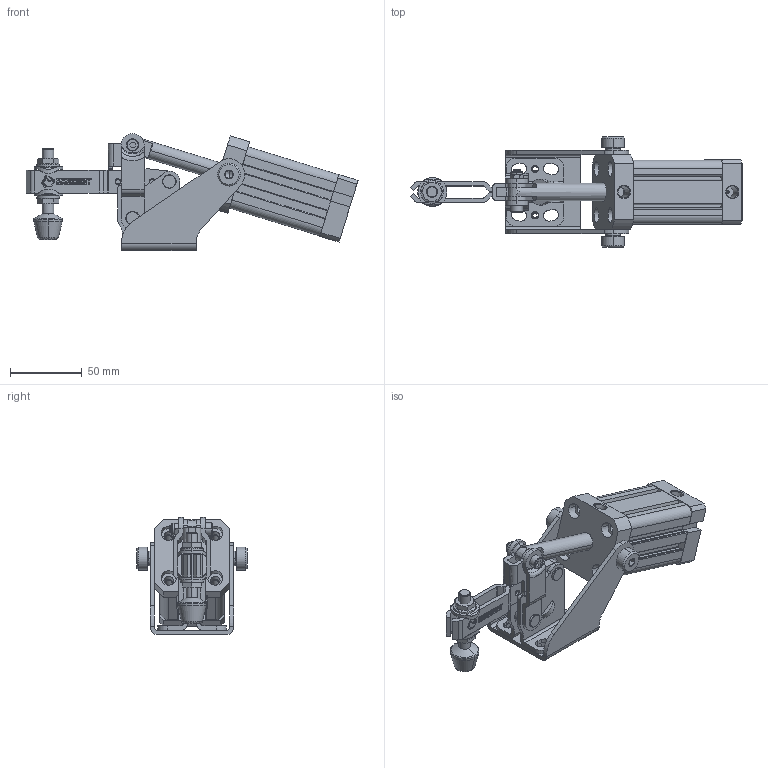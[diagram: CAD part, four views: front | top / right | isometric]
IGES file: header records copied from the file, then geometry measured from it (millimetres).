
Start section: 3D InterOp IGES (v. 2020 1.0.1), Spatial Corp. Copyright (c) 1999-2017.
Global section: file name: 612-3.igs; native system: Spatial Corp.; preprocessor: 3D InterOp ACIS/IGES; author: TraceParts; organization: TraceParts S.A.; date: 20240305.220324; units: millimetre
Bounding box: 231.12 x 77 x 81.5 mm (x, y, z)
Surface area: 103784 mm2 (no closed solid volume)
Topology: 0 solids, 0 shells, 1609 faces, 9296 edges, 9267 vertices
Faces by surface type: revolution 1076, extrusion 483, bspline 50
